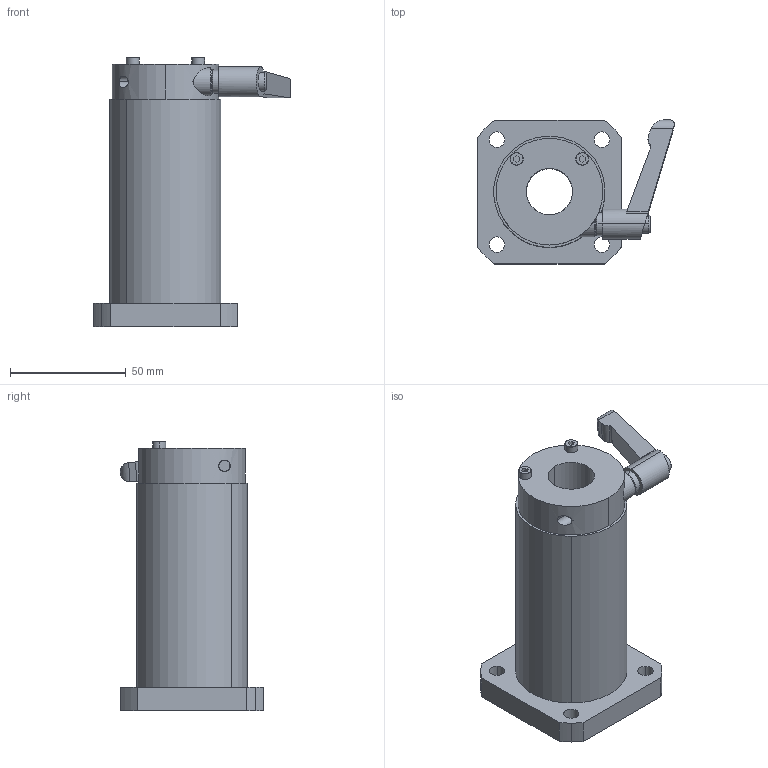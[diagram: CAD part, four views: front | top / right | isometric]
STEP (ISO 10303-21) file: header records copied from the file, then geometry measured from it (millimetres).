
FILE_DESCRIPTION (( 'STEP AP214' ), '1' );
FILE_NAME ('LFWK20MF-CS.STEP', '2023-06-27T02:54:56', ( '' ), ( '' ), 'SwSTEP 2.0', 'SolidWorks 2019', '' );
FILE_SCHEMA (( 'AUTOMOTIVE_DESIGN' ));
Length unit declared in the file: millimetre
Products named in the file (3): LFWK20MF; LFWK20MF-CS; “ÁSCK2015SS-S3.4
Assembly tree (2 placements, depth 2):
  LFWK20MF-CS
    LFWK20MF
    “ÁSCK2015SS-S3.4
Bounding box: 84.9 x 62 x 116 mm (x, y, z)
Volume: 187009.6 mm3; surface area: 41574.9 mm2
Topology: 3 solids, 5 shells, 172 faces, 437 edges, 278 vertices
Faces by surface type: cylinder 73, plane 64, bspline 16, cone 11, torus 8
Entity records: 7455 total; most frequent: CARTESIAN_POINT 1426, DIRECTION 950, ORIENTED_EDGE 874, EDGE_CURVE 437, AXIS2_PLACEMENT_3D 384, VERTEX_POINT 278, CIRCLE 223, EDGE_LOOP 207
